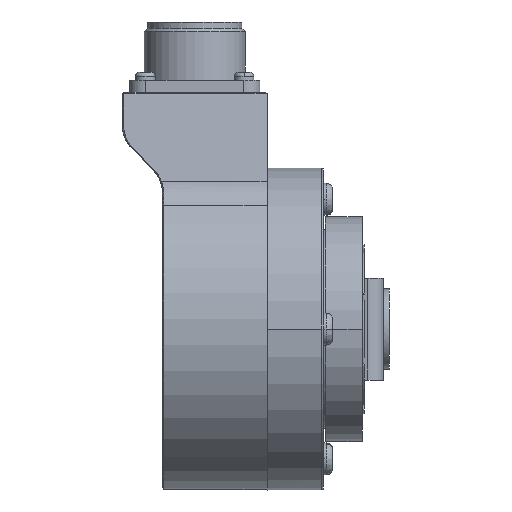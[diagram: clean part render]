
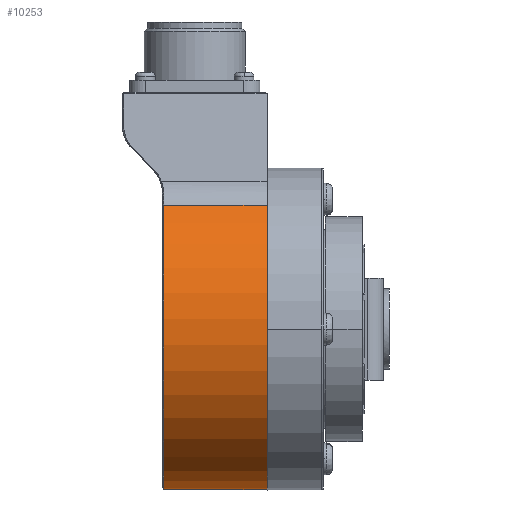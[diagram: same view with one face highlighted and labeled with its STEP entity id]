
A CAD part, front view. The second image highlights one B-rep face of the part: STEP entity #10253.
In plain terms, the highlighted cylindrical face has radius 40 mm (diameter 80 mm), a partial arc.
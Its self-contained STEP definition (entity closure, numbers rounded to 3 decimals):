
#605 = AXIS2_PLACEMENT_3D ( 'NONE', #19478, #10487, #17635 ) ;
#831 = VERTEX_POINT ( 'NONE', #21255 ) ;
#908 = LINE ( 'NONE', #6821, #22706 ) ;
#1360 = AXIS2_PLACEMENT_3D ( 'NONE', #1633, #1868, #9329 ) ;
#1633 = CARTESIAN_POINT ( 'NONE',  ( 0., 0., 0. ) ) ;
#1868 = DIRECTION ( 'NONE',  ( -1., 0., 0. ) ) ;
#2047 = VERTEX_POINT ( 'NONE', #10667 ) ;
#4237 = CARTESIAN_POINT ( 'NONE',  ( 0., -25.397, 30.903 ) ) ;
#4494 = CARTESIAN_POINT ( 'NONE',  ( 0., 0., 0. ) ) ;
#5974 = DIRECTION ( 'NONE',  ( 0., 0., -1. ) ) ;
#6821 = CARTESIAN_POINT ( 'NONE',  ( 0., 0., -40. ) ) ;
#7646 = CIRCLE ( 'NONE', #605, 40. ) ;
#9329 = DIRECTION ( 'NONE',  ( 0., 0., -1. ) ) ;
#9568 = CIRCLE ( 'NONE', #1360, 40. ) ;
#10092 = EDGE_CURVE ( 'NONE', #12224, #831, #7646, .T. ) ;
#10253 = ADVANCED_FACE ( 'NONE', ( #15193 ), #22849, .T. ) ;
#10487 = DIRECTION ( 'NONE',  ( 1., 0., 0. ) ) ;
#10667 = CARTESIAN_POINT ( 'NONE',  ( 0., 0., -40. ) ) ;
#11505 = VECTOR ( 'NONE', #16579, 1000. ) ;
#12224 = VERTEX_POINT ( 'NONE', #23662 ) ;
#13902 = ORIENTED_EDGE ( 'NONE', *, *, #18542, .F. ) ;
#13905 = ORIENTED_EDGE ( 'NONE', *, *, #10092, .T. ) ;
#14375 = ORIENTED_EDGE ( 'NONE', *, *, #20284, .T. ) ;
#14987 = LINE ( 'NONE', #18371, #11505 ) ;
#15193 = FACE_OUTER_BOUND ( 'NONE', #16222, .T. ) ;
#15660 = DIRECTION ( 'NONE',  ( -1., 0., 0. ) ) ;
#16139 = ORIENTED_EDGE ( 'NONE', *, *, #19744, .T. ) ;
#16222 = EDGE_LOOP ( 'NONE', ( #13902, #16139, #14375, #13905 ) ) ;
#16579 = DIRECTION ( 'NONE',  ( -1., 0., 0. ) ) ;
#17635 = DIRECTION ( 'NONE',  ( 0., 0., -1. ) ) ;
#18180 = AXIS2_PLACEMENT_3D ( 'NONE', #4494, #15660, #5974 ) ;
#18371 = CARTESIAN_POINT ( 'NONE',  ( 0., -25.397, 30.903 ) ) ;
#18542 = EDGE_CURVE ( 'NONE', #2047, #831, #908, .T. ) ;
#18769 = VERTEX_POINT ( 'NONE', #4237 ) ;
#19478 = CARTESIAN_POINT ( 'NONE',  ( -25.7, 0., 0. ) ) ;
#19744 = EDGE_CURVE ( 'NONE', #2047, #18769, #9568, .T. ) ;
#20284 = EDGE_CURVE ( 'NONE', #18769, #12224, #14987, .T. ) ;
#21255 = CARTESIAN_POINT ( 'NONE',  ( -25.7, 0., -40. ) ) ;
#22706 = VECTOR ( 'NONE', #23457, 1000. ) ;
#22849 = CYLINDRICAL_SURFACE ( 'NONE', #18180, 40. ) ;
#23457 = DIRECTION ( 'NONE',  ( -1., 0., 0. ) ) ;
#23662 = CARTESIAN_POINT ( 'NONE',  ( -25.7, -25.397, 30.903 ) ) ;
